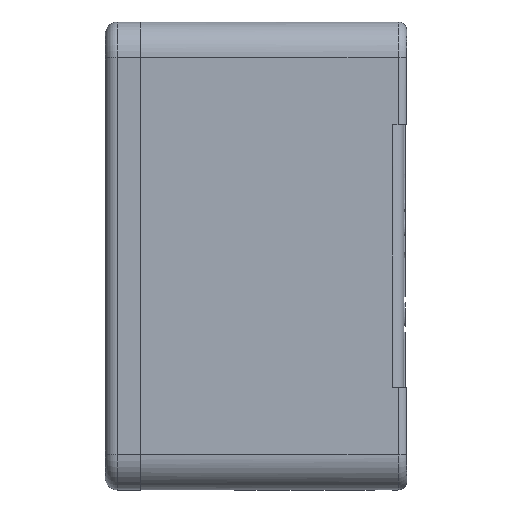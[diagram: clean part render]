
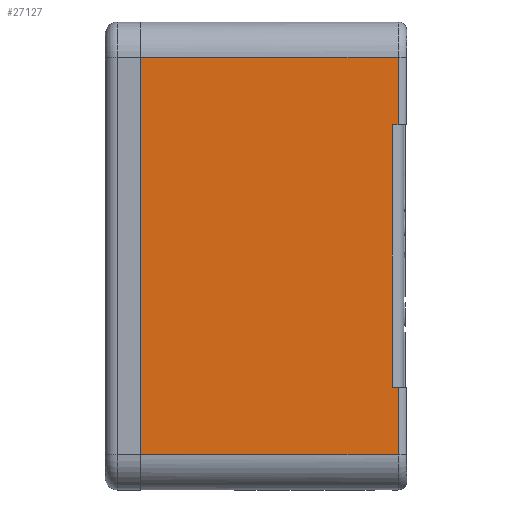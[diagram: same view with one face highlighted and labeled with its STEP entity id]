
A CAD part, left-side view. The second image highlights one B-rep face of the part: STEP entity #27127.
In plain terms, the highlighted planar face has unit normal (-1, -0.018, 0).
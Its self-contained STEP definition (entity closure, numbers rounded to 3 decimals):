
#2595=DIRECTION('',(0.,0.,1.));
#2596=VECTOR('',#2595,44.914);
#2597=CARTESIAN_POINT('',(-39.249,2.465,
-22.457));
#2598=LINE('',#2597,#2596);
#2626=DIRECTION('',(0.,0.,1.));
#2627=VECTOR('',#2626,11.525);
#2628=CARTESIAN_POINT('',(-39.231,1.454,
-34.));
#2629=LINE('',#2628,#2627);
#3001=CARTESIAN_POINT('',(-40.,45.5,34.));
#3003=DIRECTION('',(0.,0.,-1.));
#3004=VECTOR('',#3003,68.);
#3005=CARTESIAN_POINT('',(-40.,45.5,34.));
#3006=LINE('',#3005,#3004);
#3370=DIRECTION('',(-0.017,1.,0.));
#3371=VECTOR('',#3370,44.053);
#3372=CARTESIAN_POINT('',(-39.231,1.454,34.));
#3373=LINE('',#3372,#3371);
#3379=CARTESIAN_POINT('',(-39.231,1.454,34.));
#3462=DIRECTION('',(0.,0.,1.));
#3463=VECTOR('',#3462,11.525);
#3464=CARTESIAN_POINT('',(-39.231,1.454,22.475));
#3465=LINE('',#3464,#3463);
#3470=DIRECTION('',(-0.017,1.,-0.017));
#3471=VECTOR('',#3470,1.011);
#3472=CARTESIAN_POINT('',(-39.231,1.454,22.475));
#3473=LINE('',#3472,#3471);
#3474=DIRECTION('',(0.017,-1.,-0.017));
#3475=VECTOR('',#3474,1.011);
#3476=CARTESIAN_POINT('',(-39.249,2.465,
-22.457));
#3477=LINE('',#3476,#3475);
#3621=DIRECTION('',(0.017,-1.,0.));
#3622=VECTOR('',#3621,44.053);
#3623=CARTESIAN_POINT('',(-40.,45.5,
-34.));
#3624=LINE('',#3623,#3622);
#19018=VERTEX_POINT('',#3001);
#19019=CARTESIAN_POINT('',(-40.,45.5,
-34.));
#19020=VERTEX_POINT('',#19019);
#19153=VERTEX_POINT('',#3379);
#19155=CARTESIAN_POINT('',(-39.231,1.454,
22.475));
#19156=VERTEX_POINT('',#19155);
#19157=CARTESIAN_POINT('',(-39.249,2.465,
22.457));
#19158=VERTEX_POINT('',#19157);
#19159=CARTESIAN_POINT('',(-39.249,2.465,
-22.457));
#19160=VERTEX_POINT('',#19159);
#19161=CARTESIAN_POINT('',(-39.231,1.454,
-22.475));
#19162=VERTEX_POINT('',#19161);
#19163=CARTESIAN_POINT('',(-39.231,1.454,
-34.));
#19164=VERTEX_POINT('',#19163);
#27110=CARTESIAN_POINT('',(-40.,45.5,-42.609));
#27111=DIRECTION('',(-1.,-0.017,0.));
#27112=DIRECTION('',(0.,0.,1.));
#27113=AXIS2_PLACEMENT_3D('',#27110,#27111,#27112);
#27114=PLANE('',#27113);
#27115=ORIENTED_EDGE('',*,*,#27101,.F.);
#27117=ORIENTED_EDGE('',*,*,#27116,.T.);
#27118=ORIENTED_EDGE('',*,*,#26456,.F.);
#27119=ORIENTED_EDGE('',*,*,#26470,.T.);
#27120=ORIENTED_EDGE('',*,*,#26490,.F.);
#27122=ORIENTED_EDGE('',*,*,#27121,.F.);
#27123=ORIENTED_EDGE('',*,*,#26857,.F.);
#27124=ORIENTED_EDGE('',*,*,#27031,.F.);
#27125=EDGE_LOOP('',(#27115,#27117,#27118,#27119,#27120,#27122,#27123,#27124));
#27126=FACE_OUTER_BOUND('',#27125,.F.);
#27127=ADVANCED_FACE('',(#27126),#27114,.T.);
#26456=EDGE_CURVE('',#19160,#19158,#2598,.T.);
#26470=EDGE_CURVE('',#19160,#19162,#3477,.T.);
#26490=EDGE_CURVE('',#19164,#19162,#2629,.T.);
#26857=EDGE_CURVE('',#19018,#19020,#3006,.T.);
#27031=EDGE_CURVE('',#19153,#19018,#3373,.T.);
#27101=EDGE_CURVE('',#19156,#19153,#3465,.T.);
#27116=EDGE_CURVE('',#19156,#19158,#3473,.T.);
#27121=EDGE_CURVE('',#19020,#19164,#3624,.T.);
